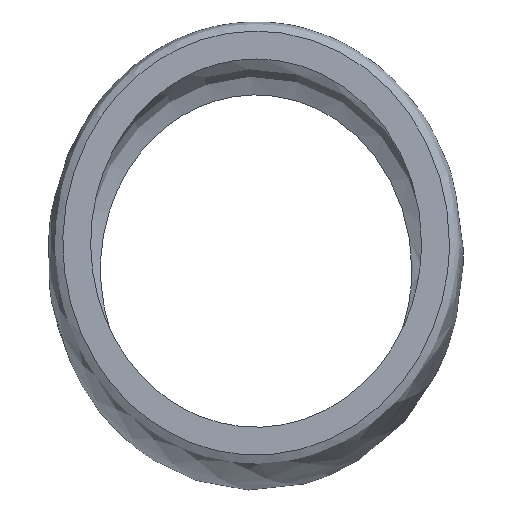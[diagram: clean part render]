
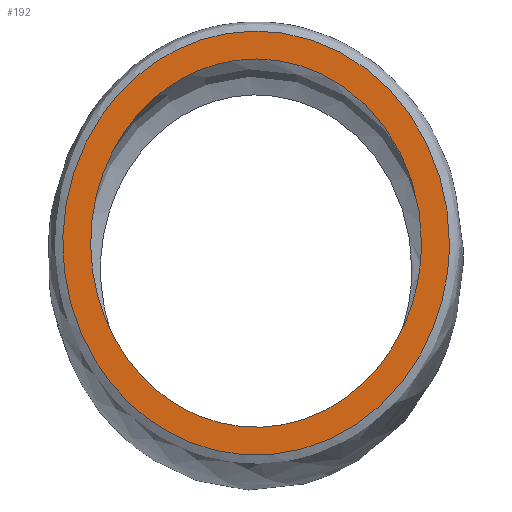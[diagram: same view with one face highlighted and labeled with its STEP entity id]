
A CAD part, top view. The second image highlights one B-rep face of the part: STEP entity #192.
In plain terms, the highlighted planar face has unit normal (0, 0, 1).
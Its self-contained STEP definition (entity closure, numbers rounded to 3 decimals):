
#34 = VERTEX_POINT('',#35);
#35 = CARTESIAN_POINT('',(87.421,-6.895,68.723));
#53 = EDGE_CURVE('',#34,#34,#54,.T.);
#54 = ( BOUNDED_CURVE() B_SPLINE_CURVE(2,(#55,#56,#57,#58,#59,#60,#61),
.UNSPECIFIED.,.T.,.F.) B_SPLINE_CURVE_WITH_KNOTS((3,2,2,3),(0.,
0.333,0.667,1.),.PIECEWISE_BEZIER_KNOTS.) CURVE() 
GEOMETRIC_REPRESENTATION_ITEM() RATIONAL_B_SPLINE_CURVE((1.273,
    0.636,1.273,0.636,1.273,
0.636,1.273)) REPRESENTATION_ITEM('') );
#55 = CARTESIAN_POINT('',(87.421,-6.895,68.723));
#56 = CARTESIAN_POINT('',(87.421,14.185,68.723));
#57 = CARTESIAN_POINT('',(70.777,3.645,68.723));
#58 = CARTESIAN_POINT('',(54.134,-6.895,68.723));
#59 = CARTESIAN_POINT('',(70.777,-17.436,68.723));
#60 = CARTESIAN_POINT('',(87.421,-27.976,68.723));
#61 = CARTESIAN_POINT('',(87.421,-6.895,68.723));
#192 = ADVANCED_FACE('',(#193,#196),#210,.T.);
#193 = FACE_BOUND('',#194,.T.);
#194 = EDGE_LOOP('',(#195));
#195 = ORIENTED_EDGE('',*,*,#53,.T.);
#196 = FACE_BOUND('',#197,.T.);
#197 = EDGE_LOOP('',(#198));
#198 = ORIENTED_EDGE('',*,*,#199,.F.);
#199 = EDGE_CURVE('',#200,#200,#202,.T.);
#200 = VERTEX_POINT('',#201);
#201 = CARTESIAN_POINT('',(85.821,-6.895,68.723));
#202 = ( BOUNDED_CURVE() B_SPLINE_CURVE(2,(#203,#204,#205,#206,#207,#208
,#209),.UNSPECIFIED.,.T.,.F.) B_SPLINE_CURVE_WITH_KNOTS((3,2,2,3),(0.,
0.333,0.667,1.),.PIECEWISE_BEZIER_KNOTS.) CURVE() 
GEOMETRIC_REPRESENTATION_ITEM() RATIONAL_B_SPLINE_CURVE((1.273,
    0.636,1.273,0.636,1.273,
0.636,1.273)) REPRESENTATION_ITEM('') );
#203 = CARTESIAN_POINT('',(85.821,-6.895,68.723));
#204 = CARTESIAN_POINT('',(85.821,11.414,68.723));
#205 = CARTESIAN_POINT('',(71.577,2.259,68.723));
#206 = CARTESIAN_POINT('',(57.334,-6.895,68.723));
#207 = CARTESIAN_POINT('',(71.577,-16.05,68.723));
#208 = CARTESIAN_POINT('',(85.821,-25.205,68.723));
#209 = CARTESIAN_POINT('',(85.821,-6.895,68.723));
#210 = PLANE('',#211);
#211 = AXIS2_PLACEMENT_3D('',#212,#213,#214);
#212 = CARTESIAN_POINT('',(87.421,-6.895,68.723));
#213 = DIRECTION('',(0.,0.,1.));
#214 = DIRECTION('',(-1.,0.,0.));
